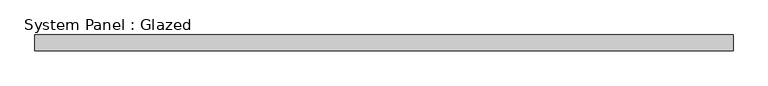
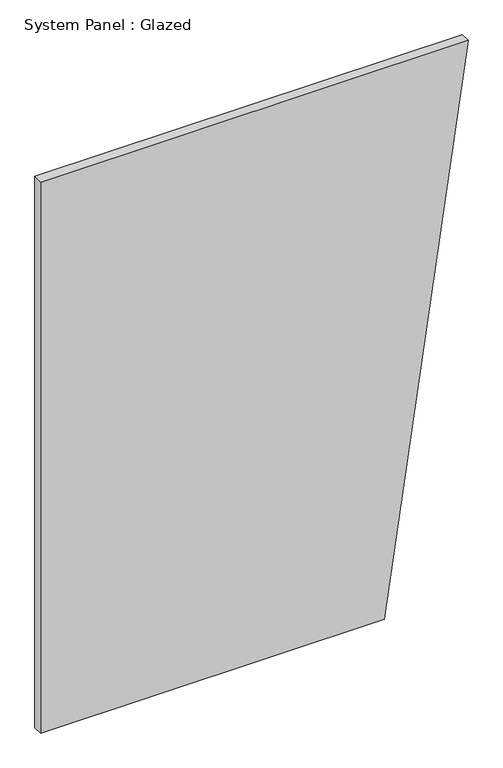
"""IFC4 building model written with IfcOpenShell, lengths in millimetres: plate geometry, System Panel : Glazed."""

from ifc_helpers import new_model, si_unit, frame, origin, place, context, project, spatial, polyline, outline, extrude, source, transform, mapped, element, save


def system_panel_glazed_5ee33d18(model_context):
    return source(origin(), model_context, "Body", "SweptSolid", [
        extrude(outline(polyline([(0.0, -559.1654675), (0.0, 339.8848919), (1524.0, 559.1654675), (1524.0, -559.1654675), (0.0, -559.1654675)])), frame((0.0, 19.05, 0.0), z_axis=(0.0, 1.0, 0.0), x_axis=(0.0, 0.0, 1.0)), (0.0, 0.0, 1.0), 25.4),
    ])


if __name__ == "__main__":
    model = new_model("IFC4")
    model_context = context("Model", 3, world=origin())
    ifc_project = project(units=[si_unit("LENGTHUNIT", "METRE", prefix="MILLI")], contexts=[model_context])
    site = spatial("IfcSite", under=ifc_project)
    building = spatial("IfcBuilding", under=site)
    placement = place(None, origin())
    system_panel_glazed_shape = system_panel_glazed_5ee33d18(model_context)
    element("IfcPlate", 1, ObjectType="System Panel : Glazed", at=placement, inside=building, context=model_context, shape_type="MappedRepresentation", body=[
        mapped(system_panel_glazed_shape, transform((0.0, 0.0, 0.0), x_axis=(1.0, 0.0, 0.0), y_axis=(0.0, 1.0, 0.0), z_axis=(0.0, 0.0, 1.0))),
    ])
    save(model, "model.ifc")
